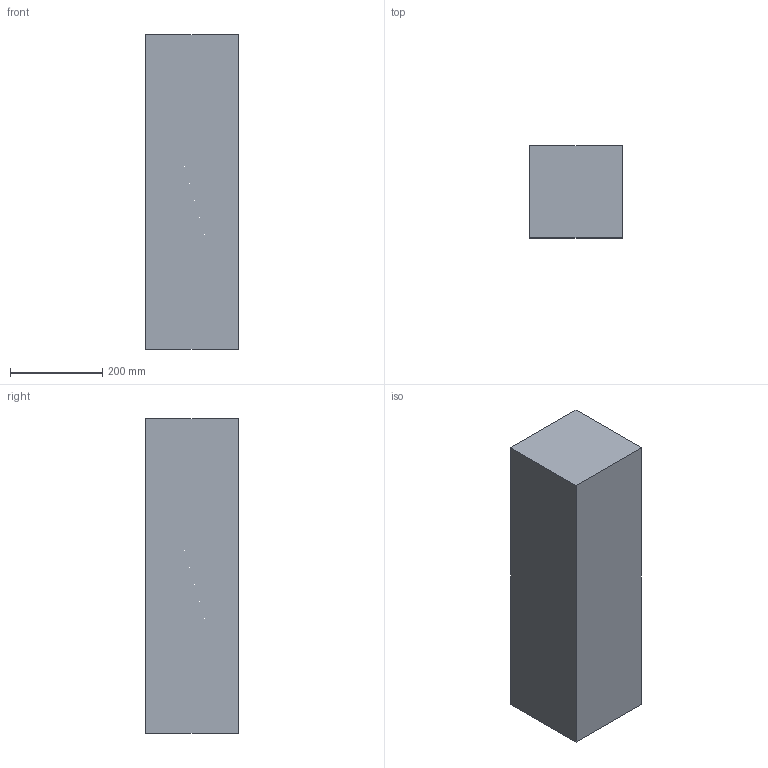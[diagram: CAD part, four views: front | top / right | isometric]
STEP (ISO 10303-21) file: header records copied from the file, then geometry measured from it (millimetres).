
FILE_DESCRIPTION(('Open CASCADE Model'),'2;1');
FILE_NAME('Open CASCADE Shape Model','2026-10-10T15:34:57',('Author'),( 'Open CASCADE'),'Open CASCADE STEP processor 7.9','Open CASCADE 7.9' ,'Unknown');
FILE_SCHEMA(('AUTOMOTIVE_DESIGN { 1 0 10303 214 1 1 1 1 }'));
Length unit declared in the file: millimetre
Products named in the file (1): Open CASCADE STEP translator 7.9 1
Bounding box: 200 x 200 x 680 mm (x, y, z)
Volume: 27200000 mm3; surface area: 624000 mm2
Topology: 1 solids, 1 shells, 6 faces, 12 edges, 8 vertices
Faces by surface type: plane 6
Entity records: 322 total; most frequent: CARTESIAN_POINT 51, DIRECTION 50, LINE 36, VECTOR 36, ORIENTED_EDGE 24, PCURVE 24, DEFINITIONAL_REPRESENTATION 24, EDGE_CURVE 12
